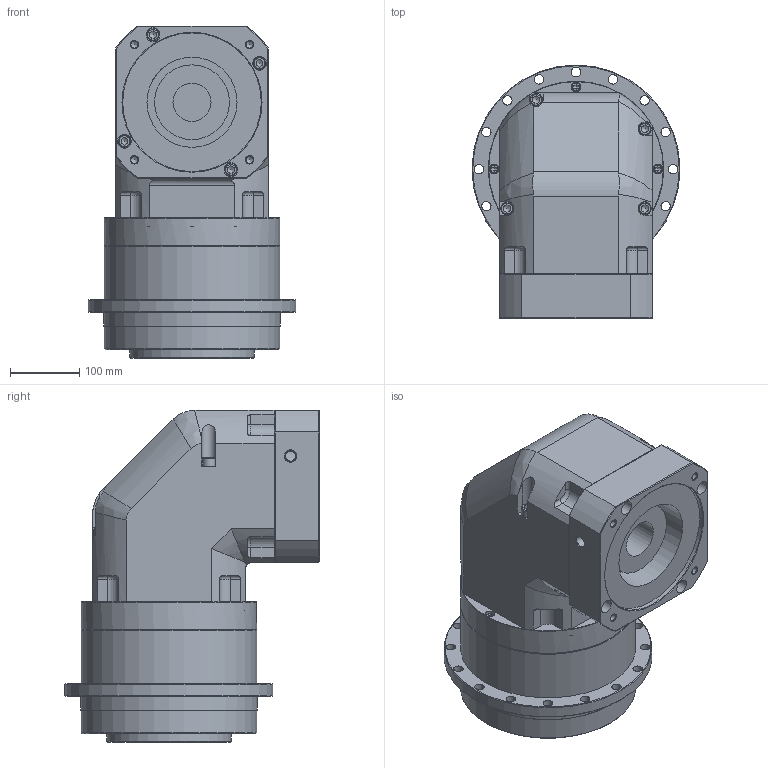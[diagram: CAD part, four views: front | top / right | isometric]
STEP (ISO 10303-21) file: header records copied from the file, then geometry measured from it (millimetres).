
FILE_DESCRIPTION((''),'2;1');
FILE_NAME('D:\유성\유성\도면\3D\2. 홈페이지용 3D 도면 (ipt)\외부도\SPLFH220\SPLFH220 (1 STAGE)_Shrinkwrap_1.stp','2014-05-08T11:25:19',('nagyu'),(''),'Autodesk Inventor 2013','Autodesk Inventor 2013','');
FILE_SCHEMA(('AUTOMOTIVE_DESIGN { 1 0 10303 214 1 1 1 1 }'));
Length unit declared in the file: millimetre
Products named in the file (1): SPLFH220 (1 STAGE)_Shrinkwrap_1
Bounding box: 300 x 366.5 x 479 mm (x, y, z)
Volume: 21606742.4 mm3; surface area: 1025041.2 mm2
Topology: 1 solids, 32 shells, 601 faces, 1356 edges, 864 vertices
Faces by surface type: plane 269, cylinder 206, cone 90, torus 32, bspline 4
Full cylindrical faces by diameter (mm): 4.2 x2, 6.647 x12, 8 x3, 9 x8, 10.106 x12, 12 x9, 13 x11, 13.5 x16, 13.835 x12, 14 x8, 14.5 x1, 16 x1, 18 x8, 19 x1, 20 x4, 23 x1, 23.1 x1, 24 x12, 55 x1, 79.8 x1, 100 x1, 108 x1, 130 x2, 140 x1, 144 x1, 150 x2, 170 x2, 180 x1, 187 x1, 190 x1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
Entity records: 15391 total; most frequent: CARTESIAN_POINT 3144, DIRECTION 2549, ORIENTED_EDGE 1990, AXIS2_PLACEMENT_3D 1103, EDGE_CURVE 995, EDGE_LOOP 960, VERTEX_POINT 757, FACE_OUTER_BOUND 601
